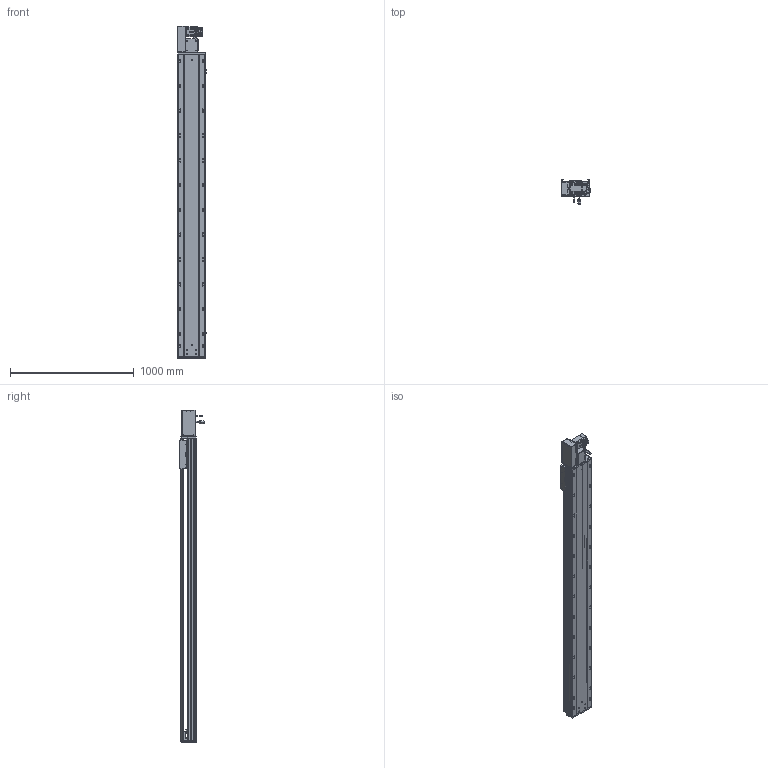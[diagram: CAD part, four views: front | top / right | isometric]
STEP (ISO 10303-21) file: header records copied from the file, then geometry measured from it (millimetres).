
FILE_DESCRIPTION (( 'STEP AP203' ), '1' );
FILE_NAME ('RY220-T-300-LK.SLDASM_2100.step', '2022-07-25T08:15:22', ( '' ), ( '' ), 'SwSTEP 2.0', 'SolidWorks 2016', '' );
FILE_SCHEMA (( 'CONFIG_CONTROL_DESIGN' ));
Length unit declared in the file: millimetre
Products named in the file (14): RY220翋肮祭謫裔啣; RY220圉猾敕々湍臏賑輸; 110A-T-肮祭謫釱傷裔; RY220翋肮祭謫釱; RY220-T-湍謫欶(鍼踢); RY220-T-蛌殏萇儂假蚾啣(750W); RY220-T菁釱-300_2100; RY220-俋离672覜茼んえ; 怢湛750W_ECMA-CX0807ES; RY220-T-300-LK.SLDASM_2100; 滅袉蝶18-15; RY220-同步轮副支撑座6304×2; 覜茼ん672; RY220-T-300-奻裔啣_2100
Assembly tree (18 placements, depth 2):
  RY220-T-300-LK.SLDASM_2100
    RY220-T菁釱-300_2100
    RY220翋肮祭謫釱
    覜茼ん672  x3
    RY220圉猾敕々湍臏賑輸
    RY220-T-300-奻裔啣_2100
    RY220-俋离672覜茼んえ
    滅袉蝶18-15  x3
    RY220翋肮祭謫裔啣  x2
    110A-T-肮祭謫釱傷裔
    怢湛750W_ECMA-CX0807ES
    RY220-T-湍謫欶(鍼踢)
    RY220-T-蛌殏萇儂假蚾啣(750W)
    RY220-同步轮副支撑座6304×2
Bounding box: 239.7 x 198.77 x 2679 mm (x, y, z)
Volume: 19377376.7 mm3; surface area: 5900984.6 mm2
Topology: 19 solids, 19 shells, 2852 faces, 7883 edges, 4962 vertices
Faces by surface type: cylinder 1380, plane 1069, cone 321, bspline 56, sphere 16, torus 10
Entity records: 95059 total; most frequent: CARTESIAN_POINT 26941, ORIENTED_EDGE 14106, DIRECTION 13508, EDGE_CURVE 7053, AXIS2_PLACEMENT_3D 4838, VERTEX_POINT 4586, LINE 3832, VECTOR 3832
